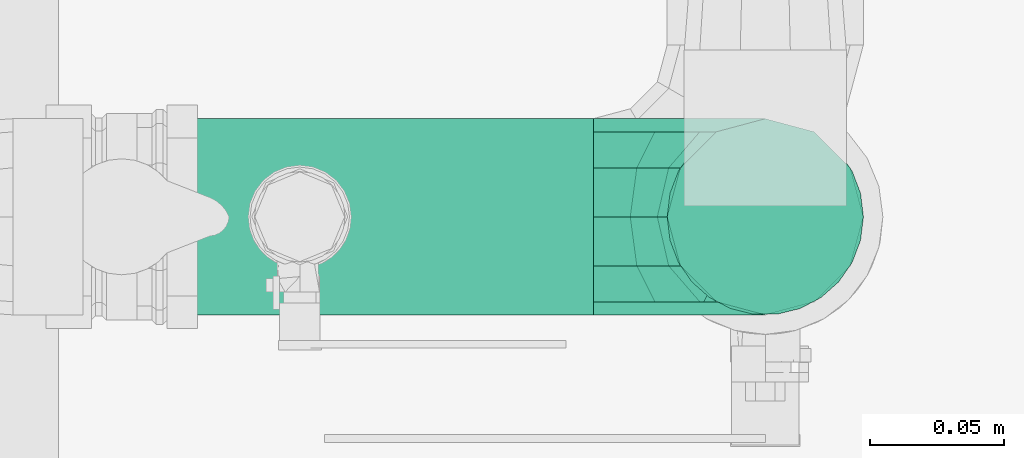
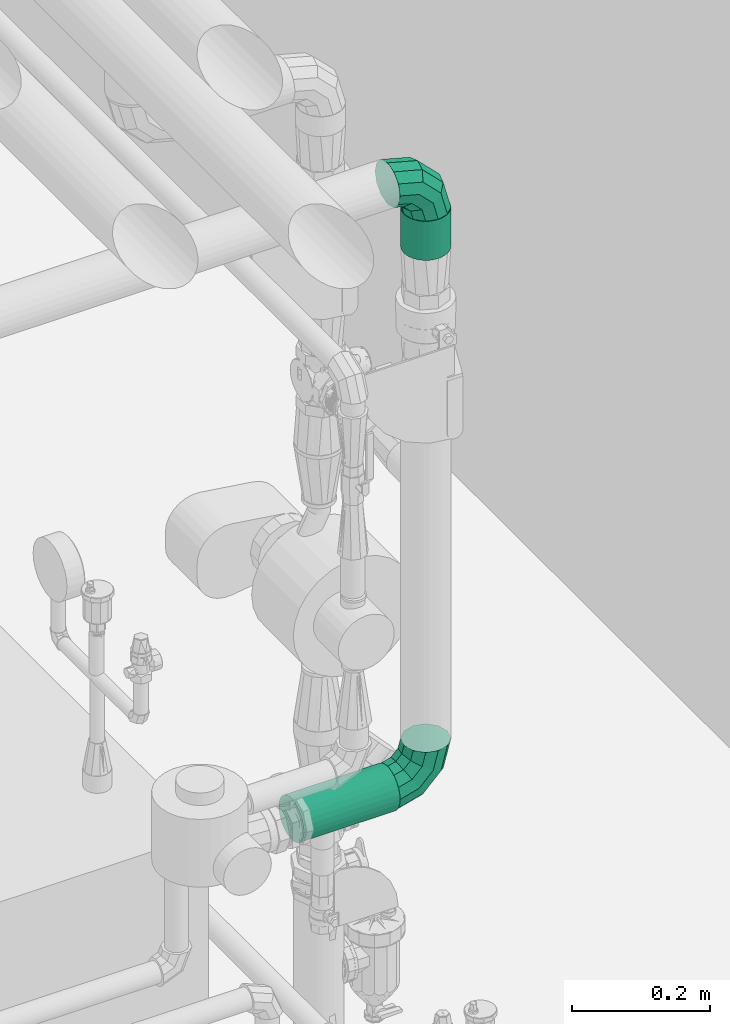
# One storey, part 20 of 43: 2 flow fittings, 2 flow segments.
"""IFC2X3 building model written with IfcOpenShell, lengths in millimetres."""

from ifc_helpers import new_model, entity, si_unit, converted_unit, derived_unit, direction, frame, frame_2d, origin, place, context, subcontext, project, spatial, circle, extrude, faceted_brep, source, transform, mapped, material, material_list, type_object, type_shapes, element, save


model = new_model("IFC2X3")

# Units and contexts
model_context = context("Model", 3, precision=0.01, world=origin(), true_north=direction((6.123031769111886e-17, 1.0)))
body_context = subcontext(model_context, "Body", "Model", "MODEL_VIEW")
ifc_project = project(units=[si_unit("LENGTHUNIT", "METRE", prefix="MILLI"), si_unit("AREAUNIT", "SQUARE_METRE"), si_unit("VOLUMEUNIT", "CUBIC_METRE"), converted_unit("PLANEANGLEUNIT", "DEGREE", entity("IfcRatioMeasure", 0.017453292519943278), si_unit("PLANEANGLEUNIT", "RADIAN"), dimensions=[0, 0, 0, 0, 0, 0, 0]), si_unit("MASSUNIT", "GRAM", prefix="KILO"), derived_unit("MASSDENSITYUNIT", [(si_unit("MASSUNIT", "GRAM", prefix="KILO"), 1), (si_unit("LENGTHUNIT", "METRE"), -3)]), derived_unit("MOMENTOFINERTIAUNIT", [(si_unit("LENGTHUNIT", "METRE"), 4)]), si_unit("TIMEUNIT", "SECOND"), si_unit("FREQUENCYUNIT", "HERTZ"), si_unit("THERMODYNAMICTEMPERATUREUNIT", "DEGREE_CELSIUS"), derived_unit("THERMALTRANSMITTANCEUNIT", [(si_unit("MASSUNIT", "GRAM", prefix="KILO"), 1), (si_unit("THERMODYNAMICTEMPERATUREUNIT", "KELVIN"), -1), (si_unit("TIMEUNIT", "SECOND"), -3)]), derived_unit("VOLUMETRICFLOWRATEUNIT", [(si_unit("LENGTHUNIT", "METRE"), 3), (si_unit("TIMEUNIT", "SECOND"), -1)]), derived_unit("MASSFLOWRATEUNIT", [(si_unit("MASSUNIT", "GRAM", prefix="KILO"), 1), (si_unit("TIMEUNIT", "SECOND"), -1)]), derived_unit("ROTATIONALFREQUENCYUNIT", [(si_unit("TIMEUNIT", "SECOND"), -1)]), si_unit("ELECTRICCURRENTUNIT", "AMPERE"), si_unit("ELECTRICVOLTAGEUNIT", "VOLT"), si_unit("POWERUNIT", "WATT"), si_unit("FORCEUNIT", "NEWTON", prefix="KILO"), si_unit("ILLUMINANCEUNIT", "LUX"), si_unit("LUMINOUSFLUXUNIT", "LUMEN"), si_unit("LUMINOUSINTENSITYUNIT", "CANDELA"), derived_unit("USERDEFINED", [(si_unit("MASSUNIT", "GRAM", prefix="KILO"), -1), (si_unit("LENGTHUNIT", "METRE"), -2), (si_unit("TIMEUNIT", "SECOND"), 3), (si_unit("LUMINOUSFLUXUNIT", "LUMEN"), 1)]), derived_unit("SOUNDPOWERUNIT", [(si_unit("MASSUNIT", "GRAM", prefix="KILO"), 1), (si_unit("LENGTHUNIT", "METRE"), 2), (si_unit("TIMEUNIT", "SECOND"), -3)]), derived_unit("SOUNDPRESSUREUNIT", [(si_unit("MASSUNIT", "GRAM", prefix="KILO"), 1), (si_unit("LENGTHUNIT", "METRE"), -1), (si_unit("TIMEUNIT", "SECOND"), -2)]), derived_unit("LINEARVELOCITYUNIT", [(si_unit("LENGTHUNIT", "METRE"), 1), (si_unit("TIMEUNIT", "SECOND"), -1)]), si_unit("PRESSUREUNIT", "PASCAL"), derived_unit("USERDEFINED", [(si_unit("LENGTHUNIT", "METRE"), -2), (si_unit("MASSUNIT", "GRAM", prefix="KILO"), 1), (si_unit("TIMEUNIT", "SECOND"), -2)]), derived_unit("LINEARFORCEUNIT", [(si_unit("MASSUNIT", "GRAM", prefix="KILO"), 1), (si_unit("LENGTHUNIT", "METRE"), 1), (si_unit("TIMEUNIT", "SECOND"), -2), (si_unit("LENGTHUNIT", "METRE"), -1)]), derived_unit("PLANARFORCEUNIT", [(si_unit("MASSUNIT", "GRAM", prefix="KILO"), 1), (si_unit("LENGTHUNIT", "METRE"), 1), (si_unit("TIMEUNIT", "SECOND"), -2), (si_unit("LENGTHUNIT", "METRE"), -2)])], contexts=[model_context])

# Site, building, storey
site_placement = place(None, origin())
site = spatial("IfcSite", under=ifc_project, at=site_placement, Name="Default", CompositionType="ELEMENT")
building_placement = place(site_placement, origin())
building = spatial("IfcBuilding", under=site, at=building_placement, CompositionType="ELEMENT")
storey_placement = place(building_placement, frame((0.0, 0.0, 270.0)))
storey = spatial("IfcBuildingStorey", under=building, at=storey_placement, Name="Niveau 0", CompositionType="ELEMENT", Elevation=270.0)

# Flow segments
pipe_segment_type = type_object("IfcPipeSegmentType", Name="Canalisation:tube acier", PredefinedType="NOTDEFINED")
flow_segment_1_placement = place(storey_placement, origin())
element("IfcFlowSegment", 1, at=flow_segment_1_placement, inside=storey, type_object=pipe_segment_type, Name="Canalisation:tube acier", ObjectType="Canalisation:tube acier", context=body_context, shape_type="SweptSolid", body=[
    extrude(circle(Radius=36.5125, at=frame_2d((1.0828671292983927e-12, 0.0), x_axis=(1.0, 0.0))), frame((-1907.0203953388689, -9615.0, 1326.499999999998), z_axis=(1.0, 0.0, 0.0), x_axis=(0.0, -1.0, 0.0)), (0.0, 0.0, 1.0), 161.0203953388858),
])
flow_segment_2_placement = place(storey_placement, origin())
element("IfcFlowSegment", 2, at=flow_segment_2_placement, inside=storey, type_object=pipe_segment_type, Name="Canalisation:tube acier", ObjectType="Canalisation:tube acier", context=body_context, shape_type="SweptSolid", body=[
    extrude(circle(Radius=36.5125, at=frame_2d((2.707167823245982e-13, 0.0), x_axis=(1.0, 0.0))), frame((-1682.0, -9615.0, 2261.535624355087), z_axis=(0.0, 0.0, 1.0), x_axis=(-1.0, 0.0, 0.0)), (0.0, 0.0, 1.0), 69.06611003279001),
])

# Flow fittings
ifc_material = material(Name="<Unnamed>")
ifc_material_list = material_list([ifc_material, ifc_material])
pipe_fitting_type = type_object("IfcPipeFittingType", Name="Coude - Générique:Standard", PredefinedType="NOTDEFINED", material=ifc_material_list)
shared_shape = source(origin(), body_context, "Body", "Brep", [
    faceted_brep([(23.03555308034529, 13.749999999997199, 0.0), (18.800625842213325, 16.19503638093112, -18.250000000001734), (31.60992723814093, 64.0, -18.250000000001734), (36.50000000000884, 64.0, 0.0), (7.230589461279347, 22.874999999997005, -31.609927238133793), (18.250000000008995, 64.0, -31.609927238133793), (-8.574374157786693, 32.0, -36.50000000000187), (0.0, 64.0, -36.50000000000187), (-24.379337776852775, 41.12499999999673, -31.609927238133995), (-18.249999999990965, 64.0, -31.609927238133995), (-35.94937415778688, 47.8049636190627, -18.250000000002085), (-31.609927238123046, 64.0, -18.250000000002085), (-40.184301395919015, 50.24999999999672, 0.0), (-36.49999999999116, 64.0, 0.0), (-35.949374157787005, 47.80496361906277, 18.249999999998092), (-31.609927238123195, 64.0, 18.249999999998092), (-24.37933777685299, 41.12499999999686, 31.609927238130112), (-18.249999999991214, 64.0, 31.609927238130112), (-8.574374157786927, 32.0, 36.49999999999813), (0.0, 64.0, 36.49999999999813), (7.2305894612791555, 22.87499999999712, 31.609927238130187), (18.250000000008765, 64.0, 31.609927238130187), (18.80062584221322, 16.195036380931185, 18.24999999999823), (31.6099272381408, 64.0, 18.24999999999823), (-13.749999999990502, -23.035553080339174, 0.0), (-16.1950363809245, -18.80062584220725, -18.250000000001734), (-22.874999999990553, -7.230589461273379, -31.609927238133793), (-32.0, 8.574374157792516, -36.50000000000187), (-41.124999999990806, 24.379337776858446, -31.609927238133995), (-47.804963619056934, 35.94937415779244, -18.250000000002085), (-50.24999999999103, 40.18430139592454, 0.0), (-47.80496361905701, 35.94937415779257, 18.249999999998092), (-41.12499999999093, 24.37933777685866, 31.609927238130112), (-32.0, 8.574374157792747, 36.49999999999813), (-22.874999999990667, -7.23058946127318, 31.609927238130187), (-16.195036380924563, -18.800625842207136, 18.24999999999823), (-64.0, -36.50000000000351, 0.0), (-64.0, -31.609927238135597, -18.250000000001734), (-64.0, -18.250000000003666, -31.609927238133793), (-64.0, 0.0, -36.50000000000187), (-64.0, 18.249999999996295, -31.609927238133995), (-64.0, 31.60992723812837, -18.250000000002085), (-64.0, 36.49999999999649, 0.0), (-64.0, 31.60992723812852, 18.249999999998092), (-64.0, 18.249999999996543, 31.609927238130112), (-64.0, 0.0, 36.49999999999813), (-64.0, -18.25000000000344, 31.609927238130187), (-64.0, -31.60992723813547, 18.24999999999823)], [[[0, 1, 2, 3]], [[1, 4, 5, 2]], [[4, 6, 7, 5]], [[6, 8, 9, 7]], [[8, 10, 11, 9]], [[10, 12, 13, 11]], [[12, 14, 15, 13]], [[14, 16, 17, 15]], [[16, 18, 19, 17]], [[18, 20, 21, 19]], [[20, 22, 23, 21]], [[22, 0, 3, 23]], [[24, 25, 1, 0]], [[25, 26, 4, 1]], [[26, 27, 6, 4]], [[27, 28, 8, 6]], [[28, 29, 10, 8]], [[29, 30, 12, 10]], [[30, 31, 14, 12]], [[31, 32, 16, 14]], [[32, 33, 18, 16]], [[33, 34, 20, 18]], [[34, 35, 22, 20]], [[35, 24, 0, 22]], [[36, 37, 25, 24]], [[37, 38, 26, 25]], [[38, 39, 27, 26]], [[39, 40, 28, 27]], [[40, 41, 29, 28]], [[41, 42, 30, 29]], [[42, 43, 31, 30]], [[43, 44, 32, 31]], [[44, 45, 33, 32]], [[45, 46, 34, 33]], [[46, 47, 35, 34]], [[47, 36, 24, 35]], [[3, 2, 5, 7, 9, 11, 13, 15, 17, 19, 21, 23]], [[47, 46, 45, 44, 43, 42, 41, 40, 39, 38, 37, 36]]]),
])
type_shapes(pipe_fitting_type, [shared_shape])
for number, where, z_axis, x_axis in (
    (3, (-1682.0, -9615.0, 1326.5000000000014), (0.0, -1.0, 0.0), (1.0, 0.0, 0.0)),
    (4, (-1682.0, -9615.0, 2394.601734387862), (0.0, -1.0, 0.0), (0.0, 0.0, 1.0)),
):
    element("IfcFlowFitting", number, at=place(storey_placement, frame(where, z_axis=z_axis, x_axis=x_axis)), inside=storey, type_object=pipe_fitting_type, material=ifc_material, Name="Coude - Générique:Standard", ObjectType="Coude - Générique:Standard", context=body_context, shape_type="MappedRepresentation", body=[
        mapped(shared_shape, transform((0.0, 0.0, 0.0), scale=1.0)),
    ])

save(model, "model.ifc")
